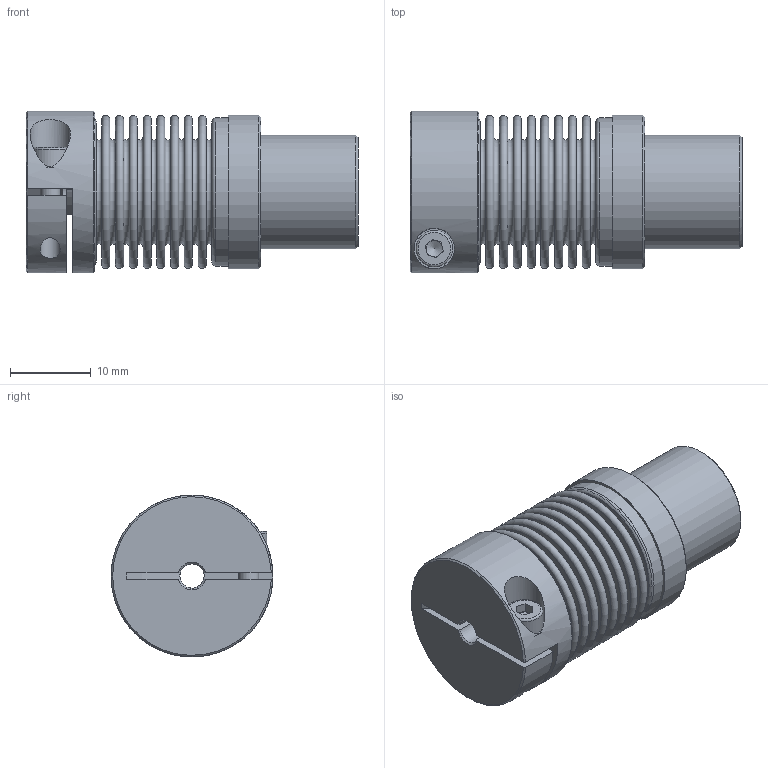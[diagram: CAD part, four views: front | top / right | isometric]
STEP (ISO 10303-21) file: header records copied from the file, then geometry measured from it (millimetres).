
FILE_DESCRIPTION( ( 'Unknown' ), '1' );
FILE_NAME( 'K:/Konstruktion/cad kunden/3D - Daten/KB3/KB3-15-29.stp', 'Unknown', ( 'Unknown' ), ( 'Unknown' ), 'PSStep 16.0.42', 'Unknown', ' ' );
FILE_SCHEMA( ( 'AUTOMOTIVE_DESIGN { 1 0 10303 214 1 1 1 1 }' ) );
Length unit declared in the file: millimetre
Products named in the file (5): Assem1; Socket Head Cap Screw_DIN_DIN 912 M2.5 x 8 --- 8N_1; KN15_Standard_1; SN15; BL15_Standard_0
Assembly tree (4 placements, depth 2):
  Assem1
    Socket Head Cap Screw_DIN_DIN 912 M2.5 x 8 --- 8N_1
    KN15_Standard_1
    SN15
    BL15_Standard_0
Bounding box: 41 x 20 x 20 mm (x, y, z)
Volume: 6084.2 mm3; surface area: 10065.4 mm2
Topology: 4 solids, 4 shells, 132 faces, 243 edges, 158 vertices
Faces by surface type: plane 66, torus 40, cylinder 17, cone 9
Full cylindrical faces by diameter (mm): 2.5 x2, 2.8 x1, 3 x1, 4.5 x2, 5 x1, 14 x1, 18 x3, 18.3 x2, 19 x1, 20 x1
Entity records: 4245 total; most frequent: CARTESIAN_POINT 599, DIRECTION 563, ORIENTED_EDGE 346, AXIS2_PLACEMENT_3D 262, EDGE_LOOP 242, FACE_OUTER_BOUND 187, EDGE_CURVE 173, VERTEX_POINT 166
